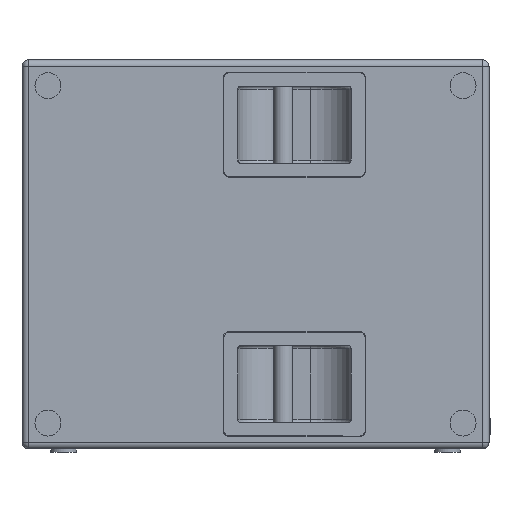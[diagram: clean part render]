
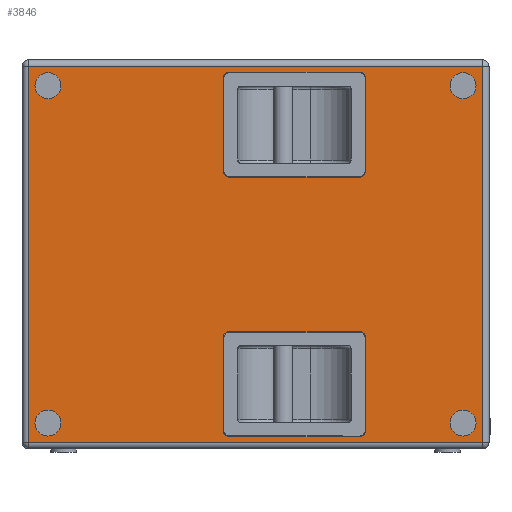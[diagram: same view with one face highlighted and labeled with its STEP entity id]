
A CAD part, left-side view. The second image highlights one B-rep face of the part: STEP entity #3846.
In plain terms, the highlighted planar face has unit normal (-1, 0, 0).
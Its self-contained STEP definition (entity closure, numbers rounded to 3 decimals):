
#38=FACE_BOUND('',#636,.T.);
#39=FACE_BOUND('',#637,.T.);
#40=FACE_BOUND('',#638,.T.);
#41=FACE_BOUND('',#639,.T.);
#42=FACE_BOUND('',#640,.T.);
#43=FACE_BOUND('',#641,.T.);
#222=PLANE('',#4223);
#391=FACE_OUTER_BOUND('',#635,.T.);
#635=EDGE_LOOP('',(#2942,#2943,#2944,#2945));
#636=EDGE_LOOP('',(#2946));
#637=EDGE_LOOP('',(#2947));
#638=EDGE_LOOP('',(#2948));
#639=EDGE_LOOP('',(#2949));
#640=EDGE_LOOP('',(#2950,#2951,#2952,#2953,#2954,#2955,#2956,#2957));
#641=EDGE_LOOP('',(#2958,#2959,#2960,#2961,#2962,#2963,#2964,#2965));
#906=LINE('',#6155,#1204);
#911=LINE('',#6169,#1209);
#915=LINE('',#6181,#1213);
#919=LINE('',#6193,#1217);
#923=LINE('',#6206,#1221);
#924=LINE('',#6208,#1222);
#925=LINE('',#6210,#1223);
#926=LINE('',#6211,#1224);
#927=LINE('',#6214,#1225);
#928=LINE('',#6218,#1226);
#929=LINE('',#6222,#1227);
#930=LINE('',#6226,#1228);
#1204=VECTOR('',#5010,10.);
#1209=VECTOR('',#5023,10.);
#1213=VECTOR('',#5035,10.);
#1217=VECTOR('',#5047,10.);
#1221=VECTOR('',#5063,10.);
#1222=VECTOR('',#5064,10.);
#1223=VECTOR('',#5065,10.);
#1224=VECTOR('',#5066,10.);
#1225=VECTOR('',#5067,10.);
#1226=VECTOR('',#5070,10.);
#1227=VECTOR('',#5073,10.);
#1228=VECTOR('',#5076,10.);
#1383=CIRCLE('',#4002,20.);
#1385=CIRCLE('',#4006,20.);
#1387=CIRCLE('',#4010,20.);
#1389=CIRCLE('',#4014,20.);
#1492=CIRCLE('',#4207,10.);
#1494=CIRCLE('',#4211,10.);
#1496=CIRCLE('',#4215,10.);
#1498=CIRCLE('',#4219,10.);
#1500=CIRCLE('',#4224,10.);
#1501=CIRCLE('',#4225,10.);
#1502=CIRCLE('',#4226,10.);
#1503=CIRCLE('',#4227,10.);
#1607=VERTEX_POINT('',#5672);
#1609=VERTEX_POINT('',#5679);
#1611=VERTEX_POINT('',#5686);
#1613=VERTEX_POINT('',#5693);
#1760=VERTEX_POINT('',#6153);
#1761=VERTEX_POINT('',#6154);
#1764=VERTEX_POINT('',#6162);
#1766=VERTEX_POINT('',#6168);
#1768=VERTEX_POINT('',#6174);
#1770=VERTEX_POINT('',#6180);
#1772=VERTEX_POINT('',#6186);
#1774=VERTEX_POINT('',#6192);
#1776=VERTEX_POINT('',#6204);
#1777=VERTEX_POINT('',#6205);
#1778=VERTEX_POINT('',#6207);
#1779=VERTEX_POINT('',#6209);
#1780=VERTEX_POINT('',#6212);
#1781=VERTEX_POINT('',#6213);
#1782=VERTEX_POINT('',#6215);
#1783=VERTEX_POINT('',#6217);
#1784=VERTEX_POINT('',#6219);
#1785=VERTEX_POINT('',#6221);
#1786=VERTEX_POINT('',#6223);
#1787=VERTEX_POINT('',#6225);
#1944=EDGE_CURVE('',#1607,#1607,#1383,.T.);
#1947=EDGE_CURVE('',#1609,#1609,#1385,.T.);
#1950=EDGE_CURVE('',#1611,#1611,#1387,.T.);
#1953=EDGE_CURVE('',#1613,#1613,#1389,.T.);
#2176=EDGE_CURVE('',#1760,#1761,#906,.T.);
#2180=EDGE_CURVE('',#1764,#1760,#1492,.T.);
#2183=EDGE_CURVE('',#1766,#1764,#911,.T.);
#2186=EDGE_CURVE('',#1768,#1766,#1494,.T.);
#2189=EDGE_CURVE('',#1770,#1768,#915,.T.);
#2192=EDGE_CURVE('',#1772,#1770,#1496,.T.);
#2195=EDGE_CURVE('',#1774,#1772,#919,.T.);
#2198=EDGE_CURVE('',#1761,#1774,#1498,.T.);
#2201=EDGE_CURVE('',#1776,#1777,#923,.T.);
#2202=EDGE_CURVE('',#1778,#1776,#924,.T.);
#2203=EDGE_CURVE('',#1779,#1778,#925,.T.);
#2204=EDGE_CURVE('',#1777,#1779,#926,.T.);
#2205=EDGE_CURVE('',#1780,#1781,#927,.T.);
#2206=EDGE_CURVE('',#1781,#1782,#1500,.T.);
#2207=EDGE_CURVE('',#1782,#1783,#928,.T.);
#2208=EDGE_CURVE('',#1783,#1784,#1501,.T.);
#2209=EDGE_CURVE('',#1784,#1785,#929,.T.);
#2210=EDGE_CURVE('',#1785,#1786,#1502,.T.);
#2211=EDGE_CURVE('',#1786,#1787,#930,.T.);
#2212=EDGE_CURVE('',#1787,#1780,#1503,.T.);
#2942=ORIENTED_EDGE('',*,*,#2201,.F.);
#2943=ORIENTED_EDGE('',*,*,#2202,.F.);
#2944=ORIENTED_EDGE('',*,*,#2203,.F.);
#2945=ORIENTED_EDGE('',*,*,#2204,.F.);
#2946=ORIENTED_EDGE('',*,*,#1944,.T.);
#2947=ORIENTED_EDGE('',*,*,#1947,.T.);
#2948=ORIENTED_EDGE('',*,*,#1950,.T.);
#2949=ORIENTED_EDGE('',*,*,#1953,.T.);
#2950=ORIENTED_EDGE('',*,*,#2205,.T.);
#2951=ORIENTED_EDGE('',*,*,#2206,.T.);
#2952=ORIENTED_EDGE('',*,*,#2207,.T.);
#2953=ORIENTED_EDGE('',*,*,#2208,.T.);
#2954=ORIENTED_EDGE('',*,*,#2209,.T.);
#2955=ORIENTED_EDGE('',*,*,#2210,.T.);
#2956=ORIENTED_EDGE('',*,*,#2211,.T.);
#2957=ORIENTED_EDGE('',*,*,#2212,.T.);
#2958=ORIENTED_EDGE('',*,*,#2176,.T.);
#2959=ORIENTED_EDGE('',*,*,#2198,.T.);
#2960=ORIENTED_EDGE('',*,*,#2195,.T.);
#2961=ORIENTED_EDGE('',*,*,#2192,.T.);
#2962=ORIENTED_EDGE('',*,*,#2189,.T.);
#2963=ORIENTED_EDGE('',*,*,#2186,.T.);
#2964=ORIENTED_EDGE('',*,*,#2183,.T.);
#2965=ORIENTED_EDGE('',*,*,#2180,.T.);
#3846=ADVANCED_FACE('',(#391,#38,#39,#40,#41,#42,#43),#222,.T.);
#4002=AXIS2_PLACEMENT_3D('',#5674,#4479,#4480);
#4006=AXIS2_PLACEMENT_3D('',#5681,#4488,#4489);
#4010=AXIS2_PLACEMENT_3D('',#5688,#4497,#4498);
#4014=AXIS2_PLACEMENT_3D('',#5695,#4506,#4507);
#4207=AXIS2_PLACEMENT_3D('',#6163,#5016,#5017);
#4211=AXIS2_PLACEMENT_3D('',#6175,#5028,#5029);
#4215=AXIS2_PLACEMENT_3D('',#6187,#5040,#5041);
#4219=AXIS2_PLACEMENT_3D('',#6198,#5052,#5053);
#4223=AXIS2_PLACEMENT_3D('',#6203,#5061,#5062);
#4224=AXIS2_PLACEMENT_3D('',#6216,#5068,#5069);
#4225=AXIS2_PLACEMENT_3D('',#6220,#5071,#5072);
#4226=AXIS2_PLACEMENT_3D('',#6224,#5074,#5075);
#4227=AXIS2_PLACEMENT_3D('',#6227,#5077,#5078);
#4479=DIRECTION('center_axis',(1.,0.,0.));
#4480=DIRECTION('ref_axis',(0.,0.,1.));
#4488=DIRECTION('center_axis',(1.,0.,0.));
#4489=DIRECTION('ref_axis',(0.,0.,1.));
#4497=DIRECTION('center_axis',(1.,0.,0.));
#4498=DIRECTION('ref_axis',(0.,0.,1.));
#4506=DIRECTION('center_axis',(1.,0.,0.));
#4507=DIRECTION('ref_axis',(0.,0.,1.));
#5010=DIRECTION('',(0.,0.,1.));
#5016=DIRECTION('center_axis',(1.,0.,0.));
#5017=DIRECTION('ref_axis',(0.,1.,0.));
#5023=DIRECTION('',(0.,1.,0.));
#5028=DIRECTION('center_axis',(1.,0.,0.));
#5029=DIRECTION('ref_axis',(0.,0.,-1.));
#5035=DIRECTION('',(0.,0.,-1.));
#5040=DIRECTION('center_axis',(1.,0.,0.));
#5041=DIRECTION('ref_axis',(0.,-1.,0.));
#5047=DIRECTION('',(0.,-1.,0.));
#5052=DIRECTION('center_axis',(1.,0.,0.));
#5053=DIRECTION('ref_axis',(0.,0.,1.));
#5061=DIRECTION('center_axis',(-1.,0.,0.));
#5062=DIRECTION('ref_axis',(0.,-1.,0.));
#5063=DIRECTION('',(0.,0.,1.));
#5064=DIRECTION('',(0.,1.,0.));
#5065=DIRECTION('',(0.,0.,-1.));
#5066=DIRECTION('',(0.,-1.,0.));
#5067=DIRECTION('',(0.,0.,1.));
#5068=DIRECTION('center_axis',(1.,0.,0.));
#5069=DIRECTION('ref_axis',(0.,0.,1.));
#5070=DIRECTION('',(0.,-1.,0.));
#5071=DIRECTION('center_axis',(1.,0.,0.));
#5072=DIRECTION('ref_axis',(0.,-1.,0.));
#5073=DIRECTION('',(0.,0.,-1.));
#5074=DIRECTION('center_axis',(1.,0.,0.));
#5075=DIRECTION('ref_axis',(0.,0.,-1.));
#5076=DIRECTION('',(0.,1.,0.));
#5077=DIRECTION('center_axis',(1.,0.,0.));
#5078=DIRECTION('ref_axis',(0.,1.,0.));
#5672=CARTESIAN_POINT('',(-600.,320.,20.));
#5674=CARTESIAN_POINT('Origin',(-600.,320.,40.));
#5679=CARTESIAN_POINT('',(-600.,-320.,540.));
#5681=CARTESIAN_POINT('Origin',(-600.,-320.,560.));
#5686=CARTESIAN_POINT('',(-600.,320.,540.));
#5688=CARTESIAN_POINT('Origin',(-600.,320.,560.));
#5693=CARTESIAN_POINT('',(-600.,-320.,20.));
#5695=CARTESIAN_POINT('Origin',(-600.,-320.,40.));
#6153=CARTESIAN_POINT('',(-600.,50.,29.));
#6154=CARTESIAN_POINT('',(-600.,50.,171.));
#6155=CARTESIAN_POINT('',(-600.,50.,14.5));
#6162=CARTESIAN_POINT('',(-600.,40.,19.));
#6163=CARTESIAN_POINT('Origin',(-600.,40.,29.));
#6168=CARTESIAN_POINT('',(-600.,-160.,19.));
#6169=CARTESIAN_POINT('',(-600.,100.,19.));
#6174=CARTESIAN_POINT('',(-600.,-170.,29.));
#6175=CARTESIAN_POINT('Origin',(-600.,-160.,29.));
#6180=CARTESIAN_POINT('',(-600.,-170.,171.));
#6181=CARTESIAN_POINT('',(-600.,-170.,85.5));
#6186=CARTESIAN_POINT('',(-600.,-160.,181.));
#6187=CARTESIAN_POINT('Origin',(-600.,-160.,171.));
#6192=CARTESIAN_POINT('',(-600.,40.,181.));
#6193=CARTESIAN_POINT('',(-600.,200.,181.));
#6198=CARTESIAN_POINT('Origin',(-600.,40.,171.));
#6203=CARTESIAN_POINT('Origin',(-600.,360.,0.));
#6204=CARTESIAN_POINT('',(-600.,350.,10.));
#6205=CARTESIAN_POINT('',(-600.,350.,590.));
#6206=CARTESIAN_POINT('',(-600.,350.,0.));
#6207=CARTESIAN_POINT('',(-600.,-350.,10.));
#6208=CARTESIAN_POINT('',(-600.,180.,10.));
#6209=CARTESIAN_POINT('',(-600.,-350.,590.));
#6210=CARTESIAN_POINT('',(-600.,-350.,0.));
#6211=CARTESIAN_POINT('',(-600.,180.,590.));
#6212=CARTESIAN_POINT('',(-600.,50.,429.));
#6213=CARTESIAN_POINT('',(-600.,50.,571.));
#6214=CARTESIAN_POINT('',(-600.,50.,214.5));
#6215=CARTESIAN_POINT('',(-600.,40.,581.));
#6216=CARTESIAN_POINT('Origin',(-600.,40.,571.));
#6217=CARTESIAN_POINT('',(-600.,-160.,581.));
#6218=CARTESIAN_POINT('',(-600.,200.,581.));
#6219=CARTESIAN_POINT('',(-600.,-170.,571.));
#6220=CARTESIAN_POINT('Origin',(-600.,-160.,571.));
#6221=CARTESIAN_POINT('',(-600.,-170.,429.));
#6222=CARTESIAN_POINT('',(-600.,-170.,285.5));
#6223=CARTESIAN_POINT('',(-600.,-160.,419.));
#6224=CARTESIAN_POINT('Origin',(-600.,-160.,429.));
#6225=CARTESIAN_POINT('',(-600.,40.,419.));
#6226=CARTESIAN_POINT('',(-600.,100.,419.));
#6227=CARTESIAN_POINT('Origin',(-600.,40.,429.));
